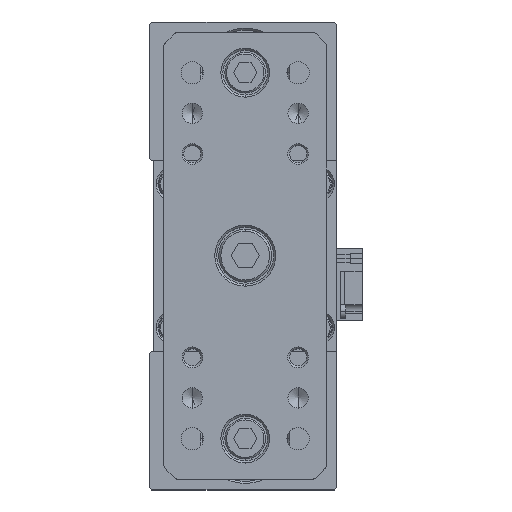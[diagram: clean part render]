
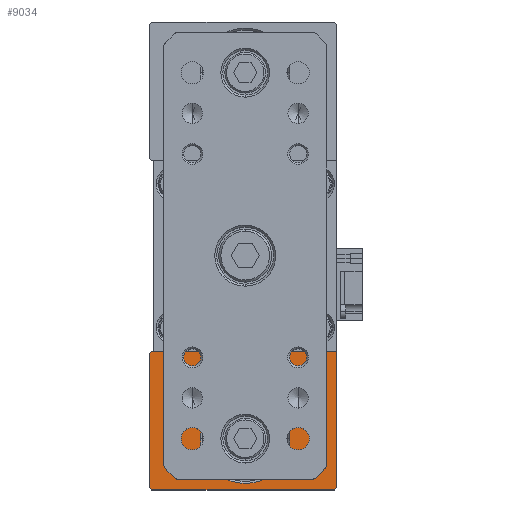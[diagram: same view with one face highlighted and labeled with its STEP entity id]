
A CAD part, top view. The second image highlights one B-rep face of the part: STEP entity #9034.
In plain terms, the highlighted planar face has unit normal (0, 0, 1).
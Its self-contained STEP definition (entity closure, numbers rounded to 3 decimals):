
#110 = EDGE_CURVE ( 'NONE', #3007, #26339, #15747, .T. ) ;
#1082 = LINE ( 'NONE', #2068, #25072 ) ;
#2012 = DIRECTION ( 'NONE',  ( -1., 0., 0. ) ) ;
#2068 = CARTESIAN_POINT ( 'NONE',  ( -23., -57.5, 411. ) ) ;
#2075 = EDGE_CURVE ( 'NONE', #26339, #31295, #14455, .T. ) ;
#2996 = ORIENTED_EDGE ( 'NONE', *, *, #11809, .T. ) ;
#3007 = VERTEX_POINT ( 'NONE', #16630 ) ;
#3061 = CARTESIAN_POINT ( 'NONE',  ( -23.5, -24., 411. ) ) ;
#3669 = CARTESIAN_POINT ( 'NONE',  ( 11., -45., 411. ) ) ;
#3802 = CARTESIAN_POINT ( 'NONE',  ( -23.5, -57.5, 411. ) ) ;
#4448 = EDGE_CURVE ( 'NONE', #22475, #26395, #23241, .T. ) ;
#4540 = DIRECTION ( 'NONE',  ( 0.707, -0.707, 0. ) ) ;
#4702 = EDGE_CURVE ( 'NONE', #26395, #22475, #8912, .T. ) ;
#5891 = EDGE_LOOP ( 'NONE', ( #9310, #23477, #31104, #25113, #16270, #27540, #2996 ) ) ;
#6848 = CARTESIAN_POINT ( 'NONE',  ( -23.5, -24., 411. ) ) ;
#6858 = ORIENTED_EDGE ( 'NONE', *, *, #4702, .T. ) ;
#7057 = VECTOR ( 'NONE', #31342, 1000. ) ;
#7895 = VECTOR ( 'NONE', #17870, 1000. ) ;
#7945 = DIRECTION ( 'NONE',  ( 0., 0., -1. ) ) ;
#8912 = CIRCLE ( 'NONE', #10584, 11. ) ;
#9034 = ADVANCED_FACE ( 'NONE', ( #10298, #16073 ), #11701, .F. ) ;
#9079 = CARTESIAN_POINT ( 'NONE',  ( 22.5, -57.5, 411. ) ) ;
#9310 = ORIENTED_EDGE ( 'NONE', *, *, #110, .T. ) ;
#10298 = FACE_BOUND ( 'NONE', #12516, .T. ) ;
#10584 = AXIS2_PLACEMENT_3D ( 'NONE', #22741, #7945, #25252 ) ;
#11701 = PLANE ( 'NONE',  #23328 ) ;
#11809 = EDGE_CURVE ( 'NONE', #31071, #3007, #13596, .T. ) ;
#11939 = CARTESIAN_POINT ( 'NONE',  ( 22., -57.5, 411. ) ) ;
#12027 = VERTEX_POINT ( 'NONE', #29927 ) ;
#12516 = EDGE_LOOP ( 'NONE', ( #26630, #6858 ) ) ;
#13230 = LINE ( 'NONE', #9079, #24894 ) ;
#13596 = LINE ( 'NONE', #18966, #7057 ) ;
#14212 = DIRECTION ( 'NONE',  ( -1., 0., 0. ) ) ;
#14447 = DIRECTION ( 'NONE',  ( 0.707, 0.707, 0. ) ) ;
#14455 = LINE ( 'NONE', #3061, #7895 ) ;
#14479 = VERTEX_POINT ( 'NONE', #15592 ) ;
#14997 = VECTOR ( 'NONE', #26754, 1000. ) ;
#15055 = CARTESIAN_POINT ( 'NONE',  ( -11., -45., 411. ) ) ;
#15592 = CARTESIAN_POINT ( 'NONE',  ( 22., -57.5, 411. ) ) ;
#15747 = LINE ( 'NONE', #21855, #14997 ) ;
#16073 = FACE_OUTER_BOUND ( 'NONE', #5891, .T. ) ;
#16152 = AXIS2_PLACEMENT_3D ( 'NONE', #31628, #16790, #2012 ) ;
#16270 = ORIENTED_EDGE ( 'NONE', *, *, #24980, .F. ) ;
#16630 = CARTESIAN_POINT ( 'NONE',  ( 22.5, -23.5, 411. ) ) ;
#16790 = DIRECTION ( 'NONE',  ( 0., 0., -1. ) ) ;
#17505 = LINE ( 'NONE', #3802, #18255 ) ;
#17870 = DIRECTION ( 'NONE',  ( -0.707, -0.707, 0. ) ) ;
#18255 = VECTOR ( 'NONE', #26100, 1000. ) ;
#18966 = CARTESIAN_POINT ( 'NONE',  ( 22.5, -57.5, 411. ) ) ;
#19774 = CARTESIAN_POINT ( 'NONE',  ( -23., -23.5, 411. ) ) ;
#20273 = EDGE_CURVE ( 'NONE', #12027, #31295, #17505, .T. ) ;
#20461 = CARTESIAN_POINT ( 'NONE',  ( 22.5, -57., 411. ) ) ;
#21855 = CARTESIAN_POINT ( 'NONE',  ( 22.5, -23.5, 411. ) ) ;
#22475 = VERTEX_POINT ( 'NONE', #3669 ) ;
#22741 = CARTESIAN_POINT ( 'NONE',  ( 0., -45., 411. ) ) ;
#23165 = VECTOR ( 'NONE', #14447, 1000. ) ;
#23241 = CIRCLE ( 'NONE', #16152, 11. ) ;
#23328 = AXIS2_PLACEMENT_3D ( 'NONE', #24067, #29016, #14212 ) ;
#23477 = ORIENTED_EDGE ( 'NONE', *, *, #2075, .T. ) ;
#23956 = LINE ( 'NONE', #11939, #23165 ) ;
#24067 = CARTESIAN_POINT ( 'NONE',  ( 22.5, -57.5, 411. ) ) ;
#24317 = EDGE_CURVE ( 'NONE', #12027, #29237, #1082, .T. ) ;
#24894 = VECTOR ( 'NONE', #28854, 1000. ) ;
#24980 = EDGE_CURVE ( 'NONE', #14479, #29237, #13230, .T. ) ;
#25072 = VECTOR ( 'NONE', #4540, 1000. ) ;
#25113 = ORIENTED_EDGE ( 'NONE', *, *, #24317, .T. ) ;
#25252 = DIRECTION ( 'NONE',  ( -1., 0., 0. ) ) ;
#26100 = DIRECTION ( 'NONE',  ( 0., 1., 0. ) ) ;
#26339 = VERTEX_POINT ( 'NONE', #19774 ) ;
#26395 = VERTEX_POINT ( 'NONE', #15055 ) ;
#26630 = ORIENTED_EDGE ( 'NONE', *, *, #4448, .T. ) ;
#26754 = DIRECTION ( 'NONE',  ( -1., 0., 0. ) ) ;
#27281 = EDGE_CURVE ( 'NONE', #14479, #31071, #23956, .T. ) ;
#27540 = ORIENTED_EDGE ( 'NONE', *, *, #27281, .T. ) ;
#28854 = DIRECTION ( 'NONE',  ( -1., 0., 0. ) ) ;
#29016 = DIRECTION ( 'NONE',  ( 0., 0., -1. ) ) ;
#29237 = VERTEX_POINT ( 'NONE', #31219 ) ;
#29927 = CARTESIAN_POINT ( 'NONE',  ( -23.5, -57., 411. ) ) ;
#31071 = VERTEX_POINT ( 'NONE', #20461 ) ;
#31104 = ORIENTED_EDGE ( 'NONE', *, *, #20273, .F. ) ;
#31219 = CARTESIAN_POINT ( 'NONE',  ( -23., -57.5, 411. ) ) ;
#31295 = VERTEX_POINT ( 'NONE', #6848 ) ;
#31342 = DIRECTION ( 'NONE',  ( 0., 1., 0. ) ) ;
#31628 = CARTESIAN_POINT ( 'NONE',  ( 0., -45., 411. ) ) ;
